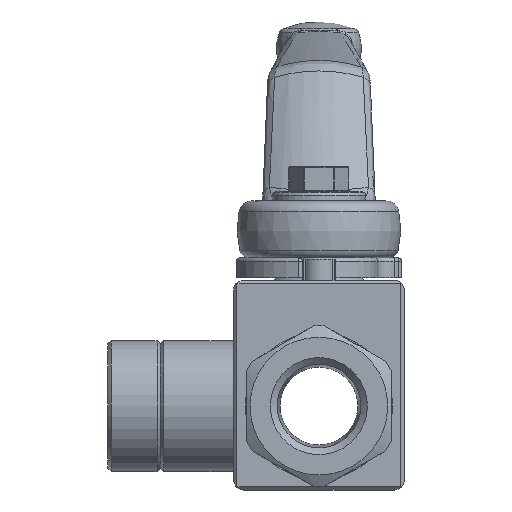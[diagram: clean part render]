
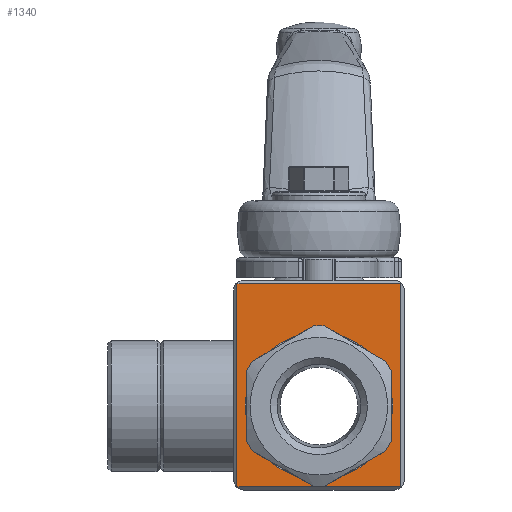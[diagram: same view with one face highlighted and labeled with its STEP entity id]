
A CAD part, front view. The second image highlights one B-rep face of the part: STEP entity #1340.
In plain terms, the highlighted planar face has unit normal (0, -1, 0).
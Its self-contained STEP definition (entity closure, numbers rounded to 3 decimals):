
#1340 = ADVANCED_FACE( '', ( #2676, #2677 ), #2678, .F. );
#2676 = FACE_BOUND( '', #5005, .T. );
#2677 = FACE_OUTER_BOUND( '', #5006, .T. );
#2678 = PLANE( '', #5007 );
#5005 = EDGE_LOOP( '', ( #8368 ) );
#5006 = EDGE_LOOP( '', ( #8369, #8370, #8371, #8372 ) );
#5007 = AXIS2_PLACEMENT_3D( '', #8373, #8374, #8375 );
#8368 = ORIENTED_EDGE( '', *, *, #8837, .T. );
#8369 = ORIENTED_EDGE( '', *, *, #9407, .T. );
#8370 = ORIENTED_EDGE( '', *, *, #9865, .T. );
#8371 = ORIENTED_EDGE( '', *, *, #9733, .T. );
#8372 = ORIENTED_EDGE( '', *, *, #10025, .T. );
#8373 = CARTESIAN_POINT( '', ( -13., -18.1, 19.2 ) );
#8374 = DIRECTION( '', ( 0., 1., 0. ) );
#8375 = DIRECTION( '', ( 0., 0., 1. ) );
#8837 = EDGE_CURVE( '', #10224, #10224, #10225, .T. );
#9407 = EDGE_CURVE( '', #11164, #11162, #11165, .T. );
#9733 = EDGE_CURVE( '', #11640, #11641, #11642, .T. );
#9865 = EDGE_CURVE( '', #11162, #11640, #11810, .T. );
#10025 = EDGE_CURVE( '', #11641, #11164, #12000, .T. );
#10224 = VERTEX_POINT( '', #12239 );
#10225 = CIRCLE( '', #12240, 11.25 );
#11162 = VERTEX_POINT( '', #14149 );
#11164 = VERTEX_POINT( '', #14152 );
#11165 = LINE( '', #14153, #14154 );
#11640 = VERTEX_POINT( '', #15059 );
#11641 = VERTEX_POINT( '', #15060 );
#11642 = LINE( '', #15061, #15062 );
#11810 = LINE( '', #15357, #15358 );
#12000 = LINE( '', #15745, #15746 );
#12239 = CARTESIAN_POINT( '', ( 0., -18.1, -11.25 ) );
#12240 = AXIS2_PLACEMENT_3D( '', #16022, #16023, #16024 );
#14149 = CARTESIAN_POINT( '', ( -12.5, -18.1, -12.3 ) );
#14152 = CARTESIAN_POINT( '', ( -12.5, -18.1, 18.7 ) );
#14153 = CARTESIAN_POINT( '', ( -12.5, -18.1, 19.2 ) );
#14154 = VECTOR( '', #16775, 1000. );
#15059 = CARTESIAN_POINT( '', ( 12.5, -18.1, -12.3 ) );
#15060 = CARTESIAN_POINT( '', ( 12.5, -18.1, 18.7 ) );
#15061 = CARTESIAN_POINT( '', ( 12.5, -18.1, 19.2 ) );
#15062 = VECTOR( '', #17193, 1000. );
#15357 = CARTESIAN_POINT( '', ( -13., -18.1, -12.3 ) );
#15358 = VECTOR( '', #17349, 1000. );
#15745 = CARTESIAN_POINT( '', ( -13., -18.1, 18.7 ) );
#15746 = VECTOR( '', #17520, 1000. );
#16022 = CARTESIAN_POINT( '', ( 0., -18.1, 0. ) );
#16023 = DIRECTION( '', ( 0., 1., 0. ) );
#16024 = DIRECTION( '', ( 0., 0., -1. ) );
#16775 = DIRECTION( '', ( 0., 0., -1. ) );
#17193 = DIRECTION( '', ( 0., 0., 1. ) );
#17349 = DIRECTION( '', ( 1., 0., 0. ) );
#17520 = DIRECTION( '', ( -1., 0., 0. ) );
